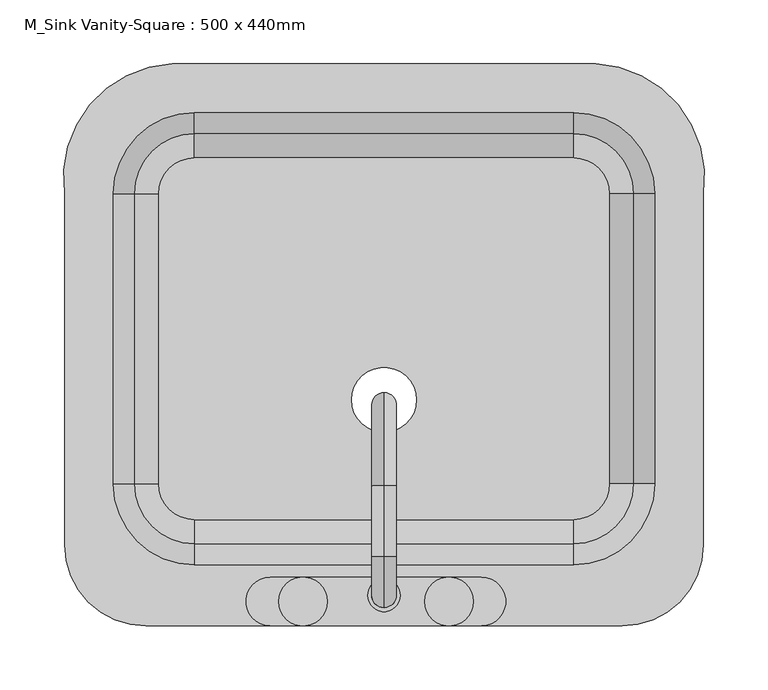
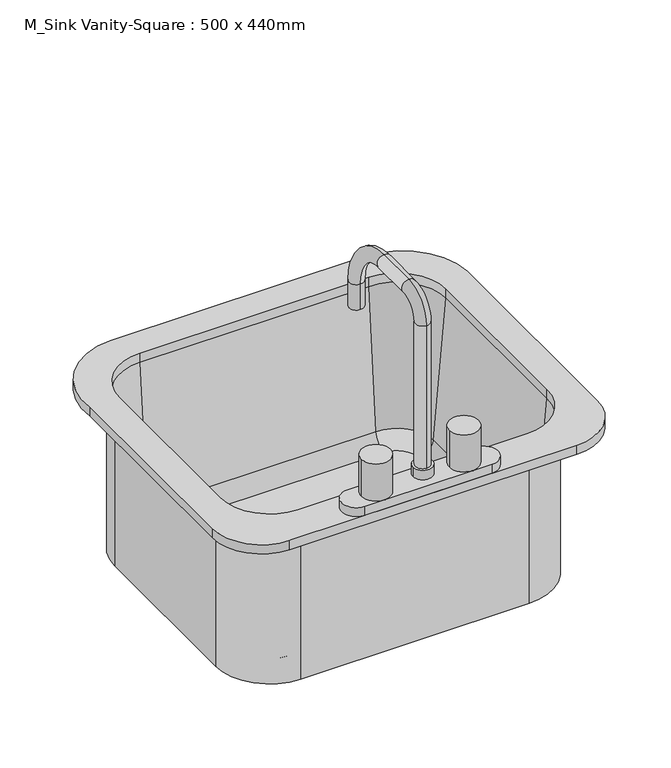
"""IFC4 building model written with IfcOpenShell, lengths in millimetres: flow terminal geometry, M_Sink Vanity-Square : 500 x 440mm."""

from ifc_helpers import new_model, si_unit, point, frame, origin, place, context, project, spatial, polyline, circle_curve, ellipse_curve, trimmed, source, transform, mapped, element, save
from ifc_brep_helpers import plane_surface, cylinder_surface, revolved_surface, advanced_brep


def m_sink_vanity_square_500_x_440mm_f3cfe680(model_context):
    return source(origin(), model_context, "Body", "AdvancedBrep", [
        advanced_brep(
        [(233.9392406, -69.0204011, 534.1), (233.9392406, -69.0204011, 750.0), (164.0892406, -138.8704011, 750.0), (164.0892406, -138.8704011, 534.1), (-132.7107594, -138.8704011, 534.1), (-202.5607594, -69.0204011, 534.1), (-202.5607594, 158.2545989, 534.1), (-132.7107594, 228.1045989, 534.1), (164.0892406, 228.1045989, 534.1), (233.9392406, 158.2545989, 534.1), (-9.7107594, -3.175, 534.1), (41.0892406, -3.175, 534.1), (192.0776588, -69.0204011, 543.625), (192.0776588, 158.2545989, 543.625), (164.0892406, 186.2430171, 543.625), (-132.7107594, 186.2430171, 543.625), (-160.6991776, 158.2545989, 543.625), (-160.6991776, -69.0204011, 543.625), (-132.7107594, -97.0088193, 543.625), (164.0892406, -97.0088193, 543.625), (-9.7107594, -3.175, 543.625), (41.0892406, -3.175, 543.625), (164.0892406, -115.9863283, 561.0146831), (211.0551678, -69.0204011, 561.0146831), (164.0892406, -132.5204011, 750.0), (227.5892406, -69.0204011, 750.0), (233.9392406, 158.2545989, 750.0), (211.0551678, 158.2545989, 561.0146831), (227.5892406, 158.2545989, 750.0), (164.0892406, 228.1045989, 750.0), (164.0892406, 205.2205261, 561.0146831), (164.0892406, 221.7545989, 750.0), (-132.7107594, 228.1045989, 750.0), (-132.7107594, 205.2205261, 561.0146831), (-132.7107594, 221.7545989, 750.0), (-202.5607594, 158.2545989, 750.0), (-179.6766866, 158.2545989, 561.0146831), (-196.2107594, 158.2545989, 750.0), (-202.5607594, -69.0204011, 750.0), (-179.6766866, -69.0204011, 561.0146831), (-196.2107594, -69.0204011, 750.0), (-132.7107594, -138.8704011, 750.0), (-132.7107594, -115.9863283, 561.0146831), (-132.7107594, -132.5204011, 750.0), (-149.9606923, 259.8545989, 762.7), (-234.3107593, 158.2545982, 762.7), (-234.3107593, -116.6454011, 762.7), (-170.8107593, -180.1454011, 762.7), (202.1892406, -180.1454011, 762.7), (265.6892406, -116.6454011, 762.7), (265.6892406, 158.2545989, 762.7), (181.3391735, 259.8545989, 762.7), (164.0892406, -132.5204011, 762.7), (-132.7107594, -132.5204011, 762.7), (-196.2107594, -69.0204011, 762.7), (-196.2107594, 158.2545989, 762.7), (-132.7107594, 221.7545989, 762.7), (164.0892406, 221.7545989, 762.7), (227.5892406, 158.2545989, 762.7), (227.5892406, -69.0204011, 762.7), (-149.9606923, 259.8545989, 750.0), (181.3391735, 259.8545989, 750.0), (265.6892406, 158.2545989, 750.0), (265.6892406, -116.6454011, 750.0), (202.1892406, -180.1454011, 750.0), (-170.8107593, -180.1454011, 750.0), (-234.3107593, -116.6454011, 750.0), (-234.3107593, 158.2545982, 750.0)],
        [
            (0, 1),
            (1, 2, circle_curve(frame((164.0892406, -69.0204011, 750.0), z_axis=(0.0, 0.0, -1.0), x_axis=(0.0, -1.0, 0.0)), 69.85)),
            (2, 3),
            (3, 0, circle_curve(frame((164.0892406, -69.0204011, 534.1), z_axis=(0.0, 0.0, 1.0), x_axis=(0.0, -1.0, 0.0)), 69.85)),
            (3, 4),
            (4, 5, circle_curve(frame((-132.7107594, -69.0204011, 534.1), z_axis=(0.0, 0.0, -1.0), x_axis=(-1.0, 0.0, 0.0)), 69.85)),
            (5, 6),
            (6, 7, circle_curve(frame((-132.7107594, 158.2545989, 534.1), z_axis=(0.0, 0.0, -1.0), x_axis=(0.0, 1.0, 0.0)), 69.85)),
            (7, 8),
            (8, 9, circle_curve(frame((164.0892406, 158.2545989, 534.1), z_axis=(0.0, 0.0, -1.0), x_axis=(1.0, 0.0, 0.0)), 69.85)),
            (9, 0),
            (10, 11, circle_curve(frame((15.6892406, -3.175, 534.1), z_axis=(0.0, 0.0, 1.0), x_axis=(1.0, 0.0, 0.0)), 25.4)),
            (11, 10, circle_curve(frame((15.6892406, -3.175, 534.1), z_axis=(0.0, 0.0, 1.0), x_axis=(1.0, 0.0, 0.0)), 25.4)),
            (12, 13),
            (13, 14, circle_curve(frame((164.0892406, 158.2545989, 543.625), z_axis=(0.0, 0.0, 1.0), x_axis=(1.0, 0.0, 0.0)), 27.9884182)),
            (14, 15),
            (15, 16, circle_curve(frame((-132.7107594, 158.2545989, 543.625), z_axis=(0.0, 0.0, 1.0), x_axis=(0.0, 1.0, 0.0)), 27.9884182)),
            (16, 17),
            (17, 18, circle_curve(frame((-132.7107594, -69.0204011, 543.625), z_axis=(0.0, 0.0, 1.0), x_axis=(-1.0, 0.0, 0.0)), 27.9884182)),
            (18, 19),
            (19, 12, circle_curve(frame((164.0892406, -69.0204011, 543.625), z_axis=(0.0, 0.0, 1.0), x_axis=(0.0, -1.0, 0.0)), 27.9884182)),
            (20, 21, circle_curve(frame((15.6892406, -3.175, 543.625), z_axis=(0.0, 0.0, -1.0), x_axis=(1.0, 0.0, 0.0)), 25.4)),
            (21, 20, circle_curve(frame((15.6892406, -3.175, 543.625), z_axis=(0.0, 0.0, -1.0), x_axis=(1.0, 0.0, 0.0)), 25.4)),
            (19, 22, circle_curve(frame((164.0892406, -97.0088193, 562.675), z_axis=(-1.0, 0.0, 0.0), x_axis=(0.0, -1.0, 0.0)), 19.05)),
            (22, 23, circle_curve(frame((164.0892406, -69.0204011, 561.0146831), z_axis=(0.0, 0.0, 1.0), x_axis=(0.0, -1.0, 0.0)), 46.9659272)),
            (23, 12, circle_curve(frame((192.0776588, -69.0204011, 562.675), z_axis=(0.0, 1.0, 0.0), x_axis=(1.0, 0.0, 0.0)), 19.05)),
            (22, 24),
            (24, 25, circle_curve(frame((164.0892406, -69.0204011, 750.0), z_axis=(0.0, 0.0, 1.0), x_axis=(0.0, -1.0, 0.0)), 63.5)),
            (25, 23),
            (9, 26),
            (26, 1),
            (23, 27),
            (27, 13, circle_curve(frame((192.0776588, 158.2545989, 562.675), z_axis=(0.0, 1.0, 0.0), x_axis=(1.0, 0.0, 0.0)), 19.05)),
            (25, 28),
            (28, 27),
            (8, 29),
            (29, 26, circle_curve(frame((164.0892406, 158.2545989, 750.0), z_axis=(0.0, 0.0, -1.0), x_axis=(1.0, 0.0, 0.0)), 69.85)),
            (27, 30, circle_curve(frame((164.0892406, 158.2545989, 561.0146831), z_axis=(0.0, 0.0, 1.0), x_axis=(1.0, 0.0, 0.0)), 46.9659272)),
            (30, 14, circle_curve(frame((164.0892406, 186.2430171, 562.675), z_axis=(-1.0, 0.0, 0.0), x_axis=(0.0, 1.0, 0.0)), 19.05)),
            (28, 31, circle_curve(frame((164.0892406, 158.2545989, 750.0), z_axis=(0.0, 0.0, 1.0), x_axis=(1.0, 0.0, 0.0)), 63.5)),
            (31, 30),
            (7, 32),
            (32, 29),
            (30, 33),
            (33, 15, circle_curve(frame((-132.7107594, 186.2430171, 562.675), z_axis=(-1.0, 0.0, 0.0), x_axis=(0.0, 1.0, 0.0)), 19.05)),
            (31, 34),
            (34, 33),
            (6, 35),
            (35, 32, circle_curve(frame((-132.7107594, 158.2545989, 750.0), z_axis=(0.0, 0.0, -1.0), x_axis=(0.0, 1.0, 0.0)), 69.85)),
            (33, 36, circle_curve(frame((-132.7107594, 158.2545989, 561.0146831), z_axis=(0.0, 0.0, 1.0), x_axis=(0.0, 1.0, 0.0)), 46.9659272)),
            (36, 16, circle_curve(frame((-160.6991776, 158.2545989, 562.675), z_axis=(0.0, -1.0, 0.0), x_axis=(-1.0, 0.0, 0.0)), 19.05)),
            (34, 37, circle_curve(frame((-132.7107594, 158.2545989, 750.0), z_axis=(0.0, 0.0, 1.0), x_axis=(0.0, 1.0, 0.0)), 63.5)),
            (37, 36),
            (5, 38),
            (38, 35),
            (36, 39),
            (39, 17, circle_curve(frame((-160.6991776, -69.0204011, 562.675), z_axis=(0.0, -1.0, 0.0), x_axis=(-1.0, 0.0, 0.0)), 19.05)),
            (37, 40),
            (40, 39),
            (4, 41),
            (41, 38, circle_curve(frame((-132.7107594, -69.0204011, 750.0), z_axis=(0.0, 0.0, -1.0), x_axis=(-1.0, 0.0, 0.0)), 69.85)),
            (39, 42, circle_curve(frame((-132.7107594, -69.0204011, 561.0146831), z_axis=(0.0, 0.0, 1.0), x_axis=(-1.0, 0.0, 0.0)), 46.9659272)),
            (42, 18, circle_curve(frame((-132.7107594, -97.0088193, 562.675), z_axis=(1.0, 0.0, 0.0), x_axis=(0.0, -1.0, 0.0)), 19.05)),
            (40, 43, circle_curve(frame((-132.7107594, -69.0204011, 750.0), z_axis=(0.0, 0.0, 1.0), x_axis=(-1.0, 0.0, 0.0)), 63.5)),
            (43, 42),
            (2, 41),
            (42, 22),
            (43, 24),
            (21, 11),
            (10, 20),
            (44, 45, circle_curve(frame((-146.1534746, 170.8793432, 762.7), z_axis=(0.0, 0.0, 1.0), x_axis=(1.0, 0.0, 0.0)), 89.0566732)),
            (45, 46),
            (46, 47, circle_curve(frame((-170.8107593, -116.6454011, 762.7), z_axis=(0.0, 0.0, 1.0), x_axis=(1.0, 0.0, 0.0)), 63.5)),
            (47, 48),
            (48, 49, circle_curve(frame((202.1892406, -116.6454011, 762.7), z_axis=(0.0, 0.0, 1.0), x_axis=(1.0, 0.0, 0.0)), 63.5)),
            (49, 50),
            (50, 51, circle_curve(frame((177.5319557, 170.8793432, 762.7), z_axis=(0.0, 0.0, 1.0), x_axis=(1.0, 0.0, 0.0)), 89.0566732)),
            (51, 44),
            (52, 53),
            (53, 54, circle_curve(frame((-132.7107594, -69.0204011, 762.7), z_axis=(0.0, 0.0, -1.0), x_axis=(1.0, 0.0, 0.0)), 63.5)),
            (54, 55),
            (55, 56, circle_curve(frame((-132.7107594, 158.2545989, 762.7), z_axis=(0.0, 0.0, -1.0), x_axis=(1.0, 0.0, 0.0)), 63.5)),
            (56, 57),
            (57, 58, circle_curve(frame((164.0892406, 158.2545989, 762.7), z_axis=(0.0, 0.0, -1.0), x_axis=(1.0, 0.0, 0.0)), 63.5)),
            (58, 59),
            (59, 52, circle_curve(frame((164.0892406, -69.0204011, 762.7), z_axis=(0.0, 0.0, -1.0), x_axis=(1.0, 0.0, 0.0)), 63.5)),
            (60, 61),
            (61, 62, circle_curve(frame((177.5319557, 170.8793432, 750.0), z_axis=(0.0, 0.0, -1.0), x_axis=(1.0, 0.0, 0.0)), 89.0566732)),
            (62, 63),
            (63, 64, circle_curve(frame((202.1892406, -116.6454011, 750.0), z_axis=(0.0, 0.0, -1.0), x_axis=(1.0, 0.0, 0.0)), 63.5)),
            (64, 65),
            (65, 66, circle_curve(frame((-170.8107593, -116.6454011, 750.0), z_axis=(0.0, 0.0, -1.0), x_axis=(1.0, 0.0, 0.0)), 63.5)),
            (66, 67),
            (67, 60, circle_curve(frame((-146.1534746, 170.8793432, 750.0), z_axis=(0.0, 0.0, -1.0), x_axis=(1.0, 0.0, 0.0)), 89.0566732)),
            (51, 61),
            (60, 44),
            (50, 62),
            (49, 63),
            (48, 64),
            (47, 65),
            (46, 66),
            (45, 67),
            (59, 25),
            (24, 52),
            (58, 28),
            (57, 31),
            (56, 34),
            (55, 37),
            (54, 40),
            (53, 43),
        ],
        [
            cylinder_surface(frame((164.0892406, -69.0204011, 0.0), z_axis=(0.0, 0.0, -1.0), x_axis=(0.0, -1.0, 0.0)), 69.85),
            plane_surface(frame((164.0892406, -69.0204011, 534.1), z_axis=(0.0, 0.0, -1.0), x_axis=(0.0, -1.0, 0.0))),
            plane_surface(frame((164.0892406, -69.0204011, 543.625), z_axis=(0.0, 0.0, 1.0), x_axis=(0.0, -1.0, 0.0))),
            revolved_surface(trimmed(ellipse_curve(frame((164.0892406, -97.0088193, 562.675), z_axis=(-1.0, 0.0, 0.0), x_axis=(0.0, -1.0, 0.0)), 19.05, 19.05), [point((164.0892406, -97.0088193, 543.625))], [point((164.0892406, -115.9863283, 561.0146831))], True, "CARTESIAN"), (164.0892406, -69.0204011, 0.0), (0.0, 0.0, -1.0)),
            revolved_surface(polyline([(164.0892406, -115.9863283, 561.0146831), (164.0892406, -132.5204011, 750.0)]), (164.0892406, -69.0204011, 0.0), (0.0, 0.0, -1.0)),
            plane_surface(frame((233.9392406, -69.0204011, 750.0), z_axis=(1.0, 0.0, 0.0), x_axis=(0.0, 1.0, 0.0))),
            revolved_surface(polyline([(211.1276588, 158.25459889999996, 562.675), (211.1276588, -69.0204011, 562.675)]), (192.0776588, -69.0204011, 562.675), (0.0, 1.0, 0.0)),
            plane_surface(frame((211.0551678, -69.0204011, 561.0146831), z_axis=(-0.9961946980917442, 0.0, 0.0871557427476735), x_axis=(0.0, 1.0, 0.0))),
            cylinder_surface(frame((164.0892406, 158.2545989, 0.0), z_axis=(0.0, 0.0, -1.0), x_axis=(1.0, 0.0, 0.0)), 69.85),
            revolved_surface(trimmed(ellipse_curve(frame((192.0776588, 158.2545989, 562.675), z_axis=(0.0, -1.0, 0.0), x_axis=(1.0, 0.0, 0.0)), 19.05, 19.05), [point((192.0776588, 158.2545989, 543.625))], [point((211.0551678, 158.2545989, 561.0146831))], True, "CARTESIAN"), (164.0892406, 158.2545989, 0.0), (0.0, 0.0, -1.0)),
            revolved_surface(polyline([(211.0551678, 158.2545989, 561.0146831), (227.5892406, 158.2545989, 750.0)]), (164.0892406, 158.2545989, 0.0), (0.0, 0.0, -1.0)),
            plane_surface(frame((164.0892406, 228.1045989, 750.0), z_axis=(0.0, 1.0, 0.0), x_axis=(-1.0, 0.0, 0.0))),
            revolved_surface(polyline([(-132.7107594, 205.29301710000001, 562.675), (164.0892406, 205.29301710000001, 562.675)]), (164.0892406, 186.2430171, 562.675), (-1.0, 0.0, 0.0)),
            plane_surface(frame((164.0892406, 205.2205261, 561.0146831), z_axis=(0.0, -0.9961946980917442, 0.0871557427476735), x_axis=(-1.0, 0.0, 0.0))),
            cylinder_surface(frame((-132.7107594, 158.2545989, 0.0), z_axis=(0.0, 0.0, -1.0), x_axis=(0.0, 1.0, 0.0)), 69.85),
            revolved_surface(trimmed(ellipse_curve(frame((-132.7107594, 186.2430171, 562.675), z_axis=(1.0, 0.0, 0.0), x_axis=(0.0, 1.0, 0.0)), 19.05, 19.05), [point((-132.7107594, 186.2430171, 543.625))], [point((-132.7107594, 205.2205261, 561.0146831))], True, "CARTESIAN"), (-132.7107594, 158.2545989, 0.0), (0.0, 0.0, -1.0)),
            revolved_surface(polyline([(-132.7107594, 205.2205261, 561.0146831), (-132.7107594, 221.7545989, 750.0)]), (-132.7107594, 158.2545989, 0.0), (0.0, 0.0, -1.0)),
            plane_surface(frame((-202.5607594, 158.2545989, 750.0), z_axis=(-1.0, 0.0, 0.0), x_axis=(0.0, -1.0, 0.0))),
            revolved_surface(polyline([(-179.74917760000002, -69.02040109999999, 562.675), (-179.74917760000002, 158.2545989, 562.675)]), (-160.6991776, 158.2545989, 562.675), (0.0, -1.0, 0.0)),
            plane_surface(frame((-179.6766866, 158.2545989, 561.0146831), z_axis=(0.9961946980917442, 0.0, 0.0871557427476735), x_axis=(0.0, -1.0, 0.0))),
            cylinder_surface(frame((-132.7107594, -69.0204011, 0.0), z_axis=(0.0, 0.0, -1.0), x_axis=(-1.0, 0.0, 0.0)), 69.85),
            revolved_surface(trimmed(ellipse_curve(frame((-160.6991776, -69.0204011, 562.675), z_axis=(0.0, 1.0, 0.0), x_axis=(-1.0, 0.0, 0.0)), 19.05, 19.05), [point((-160.6991776, -69.0204011, 543.625))], [point((-179.6766866, -69.0204011, 561.0146831))], True, "CARTESIAN"), (-132.7107594, -69.0204011, 0.0), (0.0, 0.0, -1.0)),
            revolved_surface(polyline([(-179.6766866, -69.0204011, 561.0146831), (-196.2107594, -69.0204011, 750.0)]), (-132.7107594, -69.0204011, 0.0), (0.0, 0.0, -1.0)),
            plane_surface(frame((-132.7107594, -138.8704011, 750.0), z_axis=(0.0, -1.0, 0.0), x_axis=(1.0, 0.0, 0.0))),
            revolved_surface(polyline([(164.0892406, -116.0588193, 562.675), (-132.7107594, -116.0588193, 562.675)]), (-132.7107594, -97.0088193, 562.675), (1.0, 0.0, 0.0)),
            plane_surface(frame((-132.7107594, -115.9863283, 561.0146831), z_axis=(0.0, 0.9961946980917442, 0.0871557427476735), x_axis=(1.0, 0.0, 0.0))),
            revolved_surface(polyline([(41.0892406, -3.175, 534.1), (41.0892406, -3.175, 543.625)]), (15.6892406, -3.175, 0.0), (0.0, 0.0, -1.0)),
            plane_surface(frame((181.3391735, 259.8545989, 762.7), z_axis=(0.0, 0.0, 1.0), x_axis=(1.0, 0.0, 0.0))),
            plane_surface(frame((181.3391735, 259.8545989, 750.0), z_axis=(0.0, 0.0, -1.0), x_axis=(-1.0, 0.0, 0.0))),
            plane_surface(frame((-149.9606923, 259.8545989, 762.7), z_axis=(0.0, 1.0, 0.0), x_axis=(0.0, 0.0, -1.0))),
            cylinder_surface(frame((177.5319557, 170.8793432, 750.0), z_axis=(0.0, 0.0, 1.0), x_axis=(1.0, 0.0, 0.0)), 89.0566732),
            plane_surface(frame((265.6892406, 158.2545989, 762.7), z_axis=(1.0, 0.0, 0.0), x_axis=(0.0, 0.0, -1.0))),
            cylinder_surface(frame((202.1892406, -116.6454011, 750.0), z_axis=(0.0, 0.0, 1.0), x_axis=(1.0, 0.0, 0.0)), 63.5),
            plane_surface(frame((202.1892406, -180.1454011, 762.7), z_axis=(0.0, -1.0, 0.0), x_axis=(0.0, 0.0, -1.0))),
            cylinder_surface(frame((-170.8107593, -116.6454011, 750.0), z_axis=(0.0, 0.0, 1.0), x_axis=(1.0, 0.0, 0.0)), 63.5),
            plane_surface(frame((-234.3107593, -116.6454011, 762.7), z_axis=(-1.0, 0.0, 0.0), x_axis=(0.0, 0.0, -1.0))),
            cylinder_surface(frame((-146.1534746, 170.8793432, 750.0), z_axis=(0.0, 0.0, 1.0), x_axis=(1.0, 0.0, 0.0)), 89.0566732),
            revolved_surface(polyline([(227.5892406, -69.0204011, 750.0), (227.5892406, -69.0204011, 762.7)]), (164.0892406, -69.0204011, 0.0), (0.0, 0.0, -1.0)),
            plane_surface(frame((227.5892406, -69.0204011, 762.7), z_axis=(-1.0, 0.0, 0.0), x_axis=(0.0, 0.0, -1.0))),
            revolved_surface(polyline([(227.5892406, 158.2545989, 750.0), (227.5892406, 158.2545989, 762.7)]), (164.0892406, 158.2545989, 0.0), (0.0, 0.0, -1.0)),
            plane_surface(frame((164.0892406, 221.7545989, 762.7), z_axis=(0.0, -1.0, 0.0), x_axis=(0.0, 0.0, -1.0))),
            revolved_surface(polyline([(-69.2107594, 158.2545989, 750.0), (-69.2107594, 158.2545989, 762.7)]), (-132.7107594, 158.2545989, 0.0), (0.0, 0.0, -1.0)),
            plane_surface(frame((-196.2107594, 158.2545989, 762.7), z_axis=(1.0, 0.0, 0.0), x_axis=(0.0, 0.0, -1.0))),
            revolved_surface(polyline([(-69.2107594, -69.0204011, 750.0), (-69.2107594, -69.0204011, 762.7)]), (-132.7107594, -69.0204011, 0.0), (0.0, 0.0, -1.0)),
            plane_surface(frame((-132.7107594, -132.5204011, 762.7), z_axis=(0.0, 1.0, 0.0), x_axis=(0.0, 0.0, -1.0))),
        ],
        [
            (0, [[1, 2, 3, 4]]),
            (1, [[5, 6, 7, 8, 9, 10, 11, -4], [12, 13]]),
            (2, [[14, 15, 16, 17, 18, 19, 20, 21], [22, 23]]),
            (3, [[24, 25, 26, -21]]),
            (4, [[27, 28, 29, -25]]),
            (5, [[-11, 30, 31, -1]]),
            (6, [[32, 33, -14, -26]]),
            (7, [[34, 35, -32, -29]]),
            (8, [[-10, 36, 37, -30]]),
            (9, [[38, 39, -15, -33]]),
            (10, [[40, 41, -38, -35]]),
            (11, [[-9, 42, 43, -36]]),
            (12, [[44, 45, -16, -39]]),
            (13, [[46, 47, -44, -41]]),
            (14, [[-8, 48, 49, -42]]),
            (15, [[50, 51, -17, -45]]),
            (16, [[52, 53, -50, -47]]),
            (17, [[-7, 54, 55, -48]]),
            (18, [[56, 57, -18, -51]]),
            (19, [[58, 59, -56, -53]]),
            (20, [[-6, 60, 61, -54]]),
            (21, [[62, 63, -19, -57]]),
            (22, [[64, 65, -62, -59]]),
            (23, [[66, -60, -5, -3]]),
            (24, [[-20, -63, 67, -24]]),
            (25, [[-67, -65, 68, -27]]),
            (26, [[69, -12, 70, -23]]),
            (26, [[-70, -13, -69, -22]]),
            (27, [[71, 72, 73, 74, 75, 76, 77, 78], [79, 80, 81, 82, 83, 84, 85, 86]]),
            (28, [[87, 88, 89, 90, 91, 92, 93, 94], [-31, -37, -43, -49, -55, -61, -66, -2]]),
            (29, [[95, -87, 96, -78]]),
            (30, [[97, -88, -95, -77]]),
            (31, [[98, -89, -97, -76]]),
            (32, [[99, -90, -98, -75]]),
            (33, [[100, -91, -99, -74]]),
            (34, [[101, -92, -100, -73]]),
            (35, [[102, -93, -101, -72]]),
            (36, [[-96, -94, -102, -71]]),
            (37, [[103, -28, 104, -86]]),
            (38, [[105, -34, -103, -85]]),
            (39, [[106, -40, -105, -84]]),
            (40, [[107, -46, -106, -83]]),
            (41, [[108, -52, -107, -82]]),
            (42, [[109, -58, -108, -81]]),
            (43, [[110, -64, -109, -80]]),
            (44, [[-104, -68, -110, -79]]),
        ],
    ),
        advanced_brep(
        [(91.8892406, -180.1454011, 762.7), (66.4892406, -180.1454011, 762.7), (-47.8107594, -180.1454011, 762.7), (-73.2107594, -180.1454011, 762.7), (-73.2107594, -142.0454011, 762.7), (-47.8107594, -142.0454011, 762.7), (66.4892406, -142.0454011, 762.7), (91.8892406, -142.0454011, 762.7), (15.6892406, -165.8579011, 983.3625), (15.6892406, -165.8579011, 788.1), (15.6892406, -146.8079011, 788.1), (15.6892406, -146.8079011, 983.3625), (15.6892406, -126.1704011, 1004.0), (15.6892406, -126.1704011, 1023.05), (15.6892406, -70.6079011, 1004.0), (15.6892406, -70.6079011, 1023.05), (15.6892406, -16.6329011, 950.025), (15.6892406, 2.4170989, 950.025), (15.6892406, 2.4170989, 915.1), (15.6892406, -16.6329011, 915.1), (2.9892406, -156.3329011, 788.1), (28.3892406, -156.3329011, 788.1), (28.3892406, -156.3329011, 775.2), (2.9892406, -156.3329011, 775.2), (-73.2107594, -180.1454011, 775.2), (-47.8107594, -180.1454011, 775.2), (-66.8607594, -161.0954011, 775.2), (-47.8107594, -142.0454011, 775.2), (-73.2107594, -142.0454011, 775.2), (91.8892406, -142.0454011, 775.2), (66.4892406, -142.0454011, 775.2), (85.5392406, -161.0954011, 775.2), (66.4892406, -180.1454011, 775.2), (91.8892406, -180.1454011, 775.2), (47.4392406, -161.0954011, 775.2), (-28.7607594, -161.0954011, 775.2), (-66.8607594, -161.0954011, 826.2), (-28.7607594, -161.0954011, 826.2), (47.4392406, -161.0954011, 826.2), (85.5392406, -161.0954011, 826.2)],
        [
            (0, 1),
            (1, 2),
            (2, 3),
            (3, 4, circle_curve(frame((-73.2107594, -161.0954011, 762.7), z_axis=(0.0, 0.0, -1.0), x_axis=(1.0, 0.0, 0.0)), 19.05)),
            (4, 5),
            (5, 6),
            (6, 7),
            (7, 0, circle_curve(frame((91.8892406, -161.0954011, 762.7), z_axis=(0.0, 0.0, -1.0), x_axis=(1.0, 0.0, 0.0)), 19.05)),
            (8, 9),
            (9, 10, circle_curve(frame((15.6892406, -156.3329011, 788.1), z_axis=(0.0, 0.0, 1.0), x_axis=(0.0, 1.0, 0.0)), 9.525)),
            (10, 11),
            (11, 8, circle_curve(frame((15.6892406, -156.3329011, 983.3625), z_axis=(0.0, 0.0, -1.0), x_axis=(0.0, 1.0, 0.0)), 9.525)),
            (10, 9, circle_curve(frame((15.6892406, -156.3329011, 788.1), z_axis=(0.0, 0.0, 1.0), x_axis=(0.0, 1.0, 0.0)), 9.525)),
            (8, 11, circle_curve(frame((15.6892406, -156.3329011, 983.3625), z_axis=(0.0, 0.0, -1.0), x_axis=(0.0, 1.0, 0.0)), 9.525)),
            (11, 12, circle_curve(frame((15.6892406, -126.1704011, 983.3625), z_axis=(-1.0, 0.0, 0.0), x_axis=(0.0, -1.0, 0.0)), 20.6375)),
            (12, 13, circle_curve(frame((15.6892406, -126.1704011, 1013.525), z_axis=(0.0, -1.0, 0.0), x_axis=(0.0, 0.0, -1.0)), 9.525)),
            (13, 8, circle_curve(frame((15.6892406, -126.1704011, 983.3625), z_axis=(1.0, 0.0, 0.0), x_axis=(0.0, -1.0, 0.0)), 39.6875)),
            (13, 12, circle_curve(frame((15.6892406, -126.1704011, 1013.525), z_axis=(0.0, -1.0, 0.0), x_axis=(0.0, 0.0, -1.0)), 9.525)),
            (12, 14),
            (14, 15, circle_curve(frame((15.6892406, -70.6079011, 1013.525), z_axis=(0.0, -1.0, 0.0), x_axis=(0.0, 0.0, -1.0)), 9.525)),
            (15, 13),
            (15, 14, circle_curve(frame((15.6892406, -70.6079011, 1013.525), z_axis=(0.0, -1.0, 0.0), x_axis=(0.0, 0.0, -1.0)), 9.525)),
            (14, 16, circle_curve(frame((15.6892406, -70.6079011, 950.025), z_axis=(-1.0, 0.0, 0.0), x_axis=(0.0, 0.0, 1.0)), 53.975)),
            (16, 17, circle_curve(frame((15.6892406, -7.1079011, 950.025), z_axis=(0.0, 0.0, 1.0), x_axis=(0.0, -1.0, 0.0)), 9.525)),
            (17, 15, circle_curve(frame((15.6892406, -70.6079011, 950.025), z_axis=(1.0, 0.0, 0.0), x_axis=(0.0, 0.0, 1.0)), 73.025)),
            (17, 16, circle_curve(frame((15.6892406, -7.1079011, 950.025), z_axis=(0.0, 0.0, 1.0), x_axis=(0.0, -1.0, 0.0)), 9.525)),
            (18, 19, circle_curve(frame((15.6892406, -7.1079011, 915.1), z_axis=(0.0, 0.0, -1.0), x_axis=(0.0, -1.0, 0.0)), 9.525)),
            (19, 18, circle_curve(frame((15.6892406, -7.1079011, 915.1), z_axis=(0.0, 0.0, -1.0), x_axis=(0.0, -1.0, 0.0)), 9.525)),
            (16, 19),
            (18, 17),
            (20, 21, circle_curve(frame((15.6892406, -156.3329011, 788.1), z_axis=(0.0, 0.0, 1.0), x_axis=(1.0, 0.0, 0.0)), 12.7)),
            (21, 20, circle_curve(frame((15.6892406, -156.3329011, 788.1), z_axis=(0.0, 0.0, 1.0), x_axis=(1.0, 0.0, 0.0)), 12.7)),
            (21, 22),
            (22, 23, circle_curve(frame((15.6892406, -156.3329011, 775.2), z_axis=(0.0, 0.0, 1.0), x_axis=(1.0, 0.0, 0.0)), 12.7)),
            (23, 20),
            (23, 22, circle_curve(frame((15.6892406, -156.3329011, 775.2), z_axis=(0.0, 0.0, 1.0), x_axis=(1.0, 0.0, 0.0)), 12.7)),
            (24, 25),
            (25, 26, circle_curve(frame((-47.8107594, -161.0954011, 775.2), z_axis=(0.0, 0.0, -1.0), x_axis=(1.0, 0.0, 0.0)), 19.05)),
            (26, 27, circle_curve(frame((-47.8107594, -161.0954011, 775.2), z_axis=(0.0, 0.0, -1.0), x_axis=(1.0, 0.0, 0.0)), 19.05)),
            (27, 28),
            (28, 24, circle_curve(frame((-73.2107594, -161.0954011, 775.2), z_axis=(0.0, 0.0, 1.0), x_axis=(1.0, 0.0, 0.0)), 19.05)),
            (29, 30),
            (30, 31, circle_curve(frame((66.4892406, -161.0954011, 775.2), z_axis=(0.0, 0.0, -1.0), x_axis=(1.0, 0.0, 0.0)), 19.05)),
            (31, 32, circle_curve(frame((66.4892406, -161.0954011, 775.2), z_axis=(0.0, 0.0, -1.0), x_axis=(1.0, 0.0, 0.0)), 19.05)),
            (32, 33),
            (33, 29, circle_curve(frame((91.8892406, -161.0954011, 775.2), z_axis=(0.0, 0.0, 1.0), x_axis=(1.0, 0.0, 0.0)), 19.05)),
            (32, 34, circle_curve(frame((66.4892406, -161.0954011, 775.2), z_axis=(0.0, 0.0, -1.0), x_axis=(1.0, 0.0, 0.0)), 19.05)),
            (34, 30, circle_curve(frame((66.4892406, -161.0954011, 775.2), z_axis=(0.0, 0.0, -1.0), x_axis=(1.0, 0.0, 0.0)), 19.05)),
            (30, 27),
            (27, 35, circle_curve(frame((-47.8107594, -161.0954011, 775.2), z_axis=(0.0, 0.0, -1.0), x_axis=(1.0, 0.0, 0.0)), 19.05)),
            (35, 25, circle_curve(frame((-47.8107594, -161.0954011, 775.2), z_axis=(0.0, 0.0, -1.0), x_axis=(1.0, 0.0, 0.0)), 19.05)),
            (25, 32),
            (24, 3),
            (0, 33),
            (28, 4),
            (29, 7),
            (36, 37, circle_curve(frame((-47.8107594, -161.0954011, 826.2), z_axis=(0.0, 0.0, 1.0), x_axis=(1.0, 0.0, 0.0)), 19.05)),
            (37, 36, circle_curve(frame((-47.8107594, -161.0954011, 826.2), z_axis=(0.0, 0.0, 1.0), x_axis=(1.0, 0.0, 0.0)), 19.05)),
            (38, 39, circle_curve(frame((66.4892406, -161.0954011, 826.2), z_axis=(0.0, 0.0, 1.0), x_axis=(1.0, 0.0, 0.0)), 19.05)),
            (39, 38, circle_curve(frame((66.4892406, -161.0954011, 826.2), z_axis=(0.0, 0.0, 1.0), x_axis=(1.0, 0.0, 0.0)), 19.05)),
            (37, 35),
            (26, 36),
            (39, 31),
            (34, 38),
        ],
        [
            plane_surface(frame((15.6892406, -146.8079011, 762.7), z_axis=(0.0, 0.0, -1.0), x_axis=(1.0, 0.0, 0.0))),
            cylinder_surface(frame((15.6892406, -156.3329011, 762.7), z_axis=(0.0, 0.0, -1.0), x_axis=(0.0, 1.0, 0.0)), 9.525),
            revolved_surface(trimmed(ellipse_curve(frame((15.6892406, -156.3329011, 983.3625), z_axis=(0.0, 0.0, 1.0), x_axis=(0.0, 1.0, 0.0)), 9.525, 9.525), [point((15.6892406, -165.8579011, 983.3625))], [point((15.6892406, -146.8079011, 983.3625))], True, "CARTESIAN"), (15.6892406, -126.1704011, 983.3625), (1.0, 0.0, 0.0)),
            revolved_surface(trimmed(ellipse_curve(frame((15.6892406, -156.3329011, 983.3625), z_axis=(0.0, 0.0, 1.0), x_axis=(0.0, 1.0, 0.0)), 9.525, 9.525), [point((15.6892406, -146.8079011, 983.3625))], [point((15.6892406, -165.8579011, 983.3625))], True, "CARTESIAN"), (15.6892406, -126.1704011, 983.3625), (1.0, 0.0, 0.0)),
            cylinder_surface(frame((15.6892406, -126.1704011, 1013.525), z_axis=(0.0, -1.0, 0.0), x_axis=(0.0, 0.0, -1.0)), 9.525),
            revolved_surface(trimmed(ellipse_curve(frame((15.6892406, -70.6079011, 1013.525), z_axis=(0.0, 1.0, 0.0), x_axis=(0.0, 0.0, -1.0)), 9.525, 9.525), [point((15.6892406, -70.6079011, 1023.05))], [point((15.6892406, -70.6079011, 1004.0))], True, "CARTESIAN"), (15.6892406, -70.6079011, 950.025), (1.0, 0.0, 0.0)),
            revolved_surface(trimmed(ellipse_curve(frame((15.6892406, -70.6079011, 1013.525), z_axis=(0.0, 1.0, 0.0), x_axis=(0.0, 0.0, -1.0)), 9.525, 9.525), [point((15.6892406, -70.6079011, 1004.0))], [point((15.6892406, -70.6079011, 1023.05))], True, "CARTESIAN"), (15.6892406, -70.6079011, 950.025), (1.0, 0.0, 0.0)),
            plane_surface(frame((15.6892406, 2.4170989, 915.1), z_axis=(0.0, 0.0, -1.0), x_axis=(-1.0, 0.0, 0.0))),
            cylinder_surface(frame((15.6892406, -7.1079011, 950.025), z_axis=(0.0, 0.0, 1.0), x_axis=(0.0, -1.0, 0.0)), 9.525),
            plane_surface(frame((28.3892406, -156.3329011, 788.1), z_axis=(0.0, 0.0, 1.0), x_axis=(0.0, -1.0, 0.0))),
            cylinder_surface(frame((15.6892406, -156.3329011, 762.7), z_axis=(0.0, 0.0, 1.0), x_axis=(1.0, 0.0, 0.0)), 12.7),
            plane_surface(frame((-73.2107594, -180.1454011, 775.2), z_axis=(0.0, 0.0, 1.0), x_axis=(-1.0, 0.0, 0.0))),
            plane_surface(frame((91.8892406, -180.1454011, 775.2), z_axis=(0.0, -1.0, 0.0), x_axis=(0.0, 0.0, -1.0))),
            cylinder_surface(frame((-73.2107594, -161.0954011, 762.7), z_axis=(0.0, 0.0, 1.0), x_axis=(1.0, 0.0, 0.0)), 19.05),
            plane_surface(frame((-73.2107594, -142.0454011, 775.2), z_axis=(0.0, 1.0, 0.0), x_axis=(0.0, 0.0, -1.0))),
            cylinder_surface(frame((91.8892406, -161.0954011, 762.7), z_axis=(0.0, 0.0, 1.0), x_axis=(1.0, 0.0, 0.0)), 19.05),
            plane_surface(frame((-28.7607594, -161.0954011, 826.2), z_axis=(0.0, 0.0, 1.0), x_axis=(0.0, -1.0, 0.0))),
            cylinder_surface(frame((-47.8107594, -161.0954011, 762.7), z_axis=(0.0, 0.0, 1.0), x_axis=(1.0, 0.0, 0.0)), 19.05),
            cylinder_surface(frame((66.4892406, -161.0954011, 0.0), z_axis=(0.0, 0.0, 1.0), x_axis=(1.0, 0.0, 0.0)), 19.05),
        ],
        [
            (0, [[1, 2, 3, 4, 5, 6, 7, 8]]),
            (1, [[9, 10, 11, 12]]),
            (1, [[-11, 13, -9, 14]]),
            (2, [[15, 16, 17, -12]]),
            (3, [[-17, 18, -15, -14]]),
            (4, [[19, 20, 21, -16]]),
            (4, [[-21, 22, -19, -18]]),
            (5, [[23, 24, 25, -20]]),
            (6, [[-25, 26, -23, -22]]),
            (7, [[27, 28]]),
            (8, [[29, -27, 30, -24]]),
            (8, [[-30, -28, -29, -26]]),
            (9, [[31, 32], [-13, -10]]),
            (10, [[33, 34, 35, -32]]),
            (10, [[-35, 36, -33, -31]]),
            (11, [[37, 38, 39, 40, 41]]),
            (11, [[42, 43, 44, 45, 46]]),
            (11, [[47, 48, 49, 50, 51, 52], [-36, -34]]),
            (12, [[-45, -52, -37, 53, -3, -2, -1, 54]]),
            (13, [[55, -4, -53, -41]]),
            (14, [[-40, -49, -42, 56, -7, -6, -5, -55]]),
            (15, [[-54, -8, -56, -46]]),
            (16, [[57, 58]]),
            (16, [[59, 60]]),
            (17, [[61, -50, -39, 62, -58]]),
            (17, [[-62, -38, -51, -61, -57]]),
            (18, [[63, -43, -48, 64, -60]]),
            (18, [[-64, -47, -44, -63, -59]]),
        ],
    ),
    ])


if __name__ == "__main__":
    model = new_model("IFC4")
    model_context = context("Model", 3, world=origin())
    ifc_project = project(units=[si_unit("LENGTHUNIT", "METRE", prefix="MILLI")], contexts=[model_context])
    site = spatial("IfcSite", under=ifc_project)
    building = spatial("IfcBuilding", under=site)
    placement = place(None, origin())
    m_sink_vanity_square_500_x_440mm_shape = m_sink_vanity_square_500_x_440mm_f3cfe680(model_context)
    element("IfcFlowTerminal", 1, ObjectType="M_Sink Vanity-Square : 500 x 440mm", at=placement, inside=building, context=model_context, shape_type="MappedRepresentation", body=[
        mapped(m_sink_vanity_square_500_x_440mm_shape, transform((0.0, 0.0, 0.0), x_axis=(1.0, 0.0, 0.0), y_axis=(0.0, 1.0, 0.0), z_axis=(0.0, 0.0, 1.0))),
    ])
    save(model, "model.ifc")
